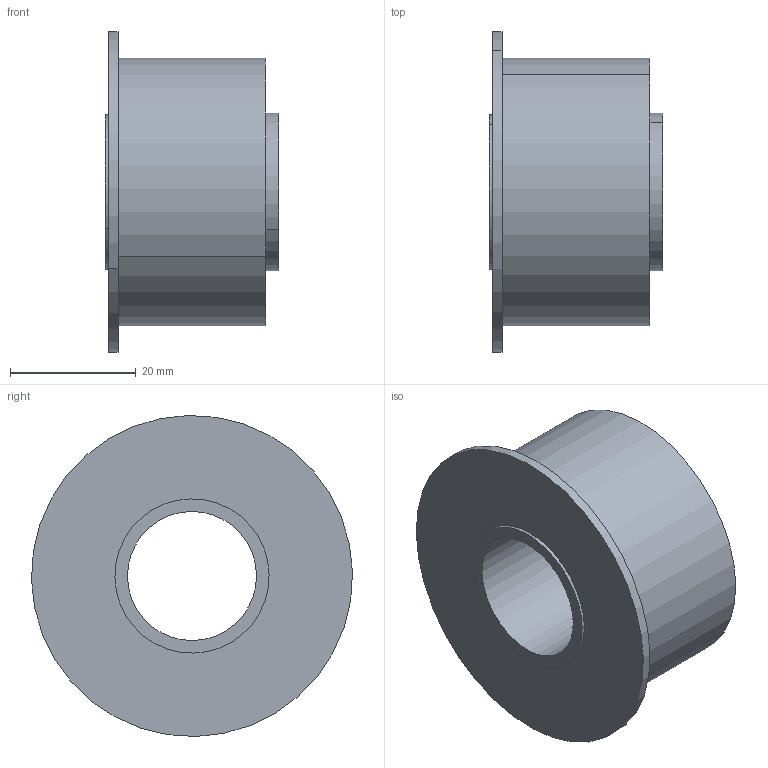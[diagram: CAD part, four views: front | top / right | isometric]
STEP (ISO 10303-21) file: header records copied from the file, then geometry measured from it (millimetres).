
FILE_DESCRIPTION(('CATIA V5 STEP Exchange'),'2;1');
FILE_NAME('\\server01\tecnico\CODICI MOVEX\3D per clienti\Daryna Itsenko\12-02-2015\P20803_01.stp','2015-02-12T11:20:03+00:00',('none'),('none'),'Version 5-6 Release 2012','CATIA V5 STEP AP203','none');
FILE_SCHEMA(('CONFIG_CONTROL_DESIGN'));
Length unit declared in the file: millimetre
Products named in the file (1): M20803_01
Bounding box: 27.5 x 50.99 x 50.99 mm (x, y, z)
Volume: 14823.4 mm3; surface area: 15773.8 mm2
Topology: 1 solids, 7 shells, 51 faces, 102 edges, 68 vertices
Faces by surface type: plane 29, cylinder 22
Entity records: 1169 total; most frequent: ORIENTED_EDGE 204, CARTESIAN_POINT 190, DIRECTION 140, EDGE_CURVE 102, VERTEX_POINT 68, AXIS2_PLACEMENT_3D 64, VECTOR 58, LINE 58
